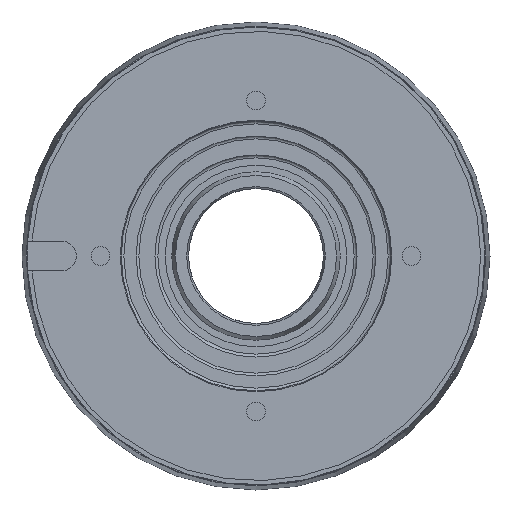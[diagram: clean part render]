
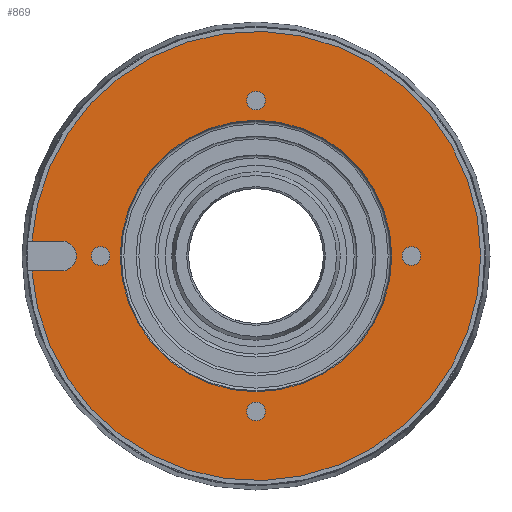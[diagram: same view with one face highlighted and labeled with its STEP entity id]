
A CAD part, left-side view. The second image highlights one B-rep face of the part: STEP entity #869.
In plain terms, the highlighted planar face has unit normal (-1, 0, 0).
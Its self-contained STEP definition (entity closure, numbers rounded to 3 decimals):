
#18 = ORIENTED_EDGE ( 'NONE', *, *, #888, .F. ) ;
#19 = CARTESIAN_POINT ( 'NONE',  ( 1.5, 0., 36.25 ) ) ;
#63 = DIRECTION ( 'NONE',  ( -1., 0., 0. ) ) ;
#65 = VERTEX_POINT ( 'NONE', #696 ) ;
#72 = EDGE_LOOP ( 'NONE', ( #18 ) ) ;
#96 = VERTEX_POINT ( 'NONE', #647 ) ;
#114 = CARTESIAN_POINT ( 'NONE',  ( 1.5, 41.5, 0. ) ) ;
#138 = CIRCLE ( 'NONE', #2077, 36.25 ) ;
#139 = CARTESIAN_POINT ( 'NONE',  ( 1.5, 59.867, -4. ) ) ;
#202 = DIRECTION ( 'NONE',  ( -1., 0., 0. ) ) ;
#207 = EDGE_CURVE ( 'NONE', #1570, #350, #2005, .T. ) ;
#228 = DIRECTION ( 'NONE',  ( 0., 0., 1. ) ) ;
#264 = CARTESIAN_POINT ( 'NONE',  ( 1.5, 0., 41.5 ) ) ;
#287 = FACE_OUTER_BOUND ( 'NONE', #1833, .T. ) ;
#346 = VERTEX_POINT ( 'NONE', #139 ) ;
#350 = VERTEX_POINT ( 'NONE', #1051 ) ;
#369 = VERTEX_POINT ( 'NONE', #517 ) ;
#374 = VERTEX_POINT ( 'NONE', #1662 ) ;
#389 = CARTESIAN_POINT ( 'NONE',  ( 1.5, 0., 0. ) ) ;
#393 = CARTESIAN_POINT ( 'NONE',  ( 1.5, 52., 4. ) ) ;
#408 = CARTESIAN_POINT ( 'NONE',  ( 1.5, 65., -4. ) ) ;
#418 = CARTESIAN_POINT ( 'NONE',  ( 1.5, 0., -41.5 ) ) ;
#510 = ORIENTED_EDGE ( 'NONE', *, *, #810, .T. ) ;
#517 = CARTESIAN_POINT ( 'NONE',  ( 1.5, 0., 44. ) ) ;
#531 = DIRECTION ( 'NONE',  ( -1., 0., 0. ) ) ;
#578 = CARTESIAN_POINT ( 'NONE',  ( 1.5, 52., 4. ) ) ;
#592 = ORIENTED_EDGE ( 'NONE', *, *, #1626, .F. ) ;
#595 = ORIENTED_EDGE ( 'NONE', *, *, #1859, .F. ) ;
#622 = AXIS2_PLACEMENT_3D ( 'NONE', #1048, #531, #1373 ) ;
#647 = CARTESIAN_POINT ( 'NONE',  ( 1.5, 0., -39. ) ) ;
#668 = VECTOR ( 'NONE', #1551, 1000. ) ;
#672 = ORIENTED_EDGE ( 'NONE', *, *, #1667, .F. ) ;
#679 = AXIS2_PLACEMENT_3D ( 'NONE', #264, #1744, #1244 ) ;
#687 = FACE_BOUND ( 'NONE', #2008, .T. ) ;
#696 = CARTESIAN_POINT ( 'NONE',  ( 1.5, 52., -4. ) ) ;
#709 = VECTOR ( 'NONE', #1427, 1000. ) ;
#810 = EDGE_CURVE ( 'NONE', #346, #350, #1346, .T. ) ;
#823 = VERTEX_POINT ( 'NONE', #19 ) ;
#828 = CARTESIAN_POINT ( 'NONE',  ( 1.5, 41.5, 2.5 ) ) ;
#869 = ADVANCED_FACE ( 'NONE', ( #1061, #1665, #1946, #1489, #287, #687 ), #1689, .T. ) ;
#871 = CIRCLE ( 'NONE', #1937, 2.5 ) ;
#888 = EDGE_CURVE ( 'NONE', #96, #96, #1406, .T. ) ;
#919 = CARTESIAN_POINT ( 'NONE',  ( 1.5, -41.5, 0. ) ) ;
#1005 = EDGE_LOOP ( 'NONE', ( #1732 ) ) ;
#1034 = VERTEX_POINT ( 'NONE', #828 ) ;
#1037 = CIRCLE ( 'NONE', #1707, 4. ) ;
#1040 = EDGE_CURVE ( 'NONE', #65, #1570, #1037, .T. ) ;
#1041 = CARTESIAN_POINT ( 'NONE',  ( 1.5, 0., 0. ) ) ;
#1048 = CARTESIAN_POINT ( 'NONE',  ( 1.5, 0., 0. ) ) ;
#1051 = CARTESIAN_POINT ( 'NONE',  ( 1.5, 59.867, 4. ) ) ;
#1061 = FACE_BOUND ( 'NONE', #72, .T. ) ;
#1081 = AXIS2_PLACEMENT_3D ( 'NONE', #1041, #202, #1209 ) ;
#1087 = ORIENTED_EDGE ( 'NONE', *, *, #207, .F. ) ;
#1100 = DIRECTION ( 'NONE',  ( 0., 0., 1. ) ) ;
#1179 = EDGE_CURVE ( 'NONE', #1034, #1034, #2063, .T. ) ;
#1209 = DIRECTION ( 'NONE',  ( 0., 0., 1. ) ) ;
#1244 = DIRECTION ( 'NONE',  ( 0., 0., 1. ) ) ;
#1346 = CIRCLE ( 'NONE', #1081, 60. ) ;
#1373 = DIRECTION ( 'NONE',  ( 0., 0., 1. ) ) ;
#1387 = DIRECTION ( 'NONE',  ( 0., 0., 1. ) ) ;
#1396 = DIRECTION ( 'NONE',  ( -1., 0., 0. ) ) ;
#1406 = CIRCLE ( 'NONE', #1593, 2.5 ) ;
#1427 = DIRECTION ( 'NONE',  ( 0., -1., 0. ) ) ;
#1476 = DIRECTION ( 'NONE',  ( -1., 0., 0. ) ) ;
#1489 = FACE_BOUND ( 'NONE', #1618, .T. ) ;
#1551 = DIRECTION ( 'NONE',  ( 0., 1., 0. ) ) ;
#1570 = VERTEX_POINT ( 'NONE', #393 ) ;
#1593 = AXIS2_PLACEMENT_3D ( 'NONE', #418, #63, #228 ) ;
#1602 = EDGE_LOOP ( 'NONE', ( #592 ) ) ;
#1618 = EDGE_LOOP ( 'NONE', ( #2118 ) ) ;
#1626 = EDGE_CURVE ( 'NONE', #369, #369, #1664, .T. ) ;
#1655 = EDGE_CURVE ( 'NONE', #374, #374, #871, .T. ) ;
#1662 = CARTESIAN_POINT ( 'NONE',  ( 1.5, -41.5, 2.5 ) ) ;
#1664 = CIRCLE ( 'NONE', #679, 2.5 ) ;
#1665 = FACE_BOUND ( 'NONE', #1005, .T. ) ;
#1667 = EDGE_CURVE ( 'NONE', #346, #65, #2056, .T. ) ;
#1689 = PLANE ( 'NONE',  #622 ) ;
#1707 = AXIS2_PLACEMENT_3D ( 'NONE', #1772, #1776, #1100 ) ;
#1732 = ORIENTED_EDGE ( 'NONE', *, *, #1655, .F. ) ;
#1744 = DIRECTION ( 'NONE',  ( -1., 0., 0. ) ) ;
#1772 = CARTESIAN_POINT ( 'NONE',  ( 1.5, 52., 0. ) ) ;
#1776 = DIRECTION ( 'NONE',  ( -1., 0., 0. ) ) ;
#1833 = EDGE_LOOP ( 'NONE', ( #1087, #1873, #672, #510 ) ) ;
#1859 = EDGE_CURVE ( 'NONE', #823, #823, #138, .T. ) ;
#1869 = AXIS2_PLACEMENT_3D ( 'NONE', #114, #1476, #1974 ) ;
#1873 = ORIENTED_EDGE ( 'NONE', *, *, #1040, .F. ) ;
#1937 = AXIS2_PLACEMENT_3D ( 'NONE', #919, #2114, #1942 ) ;
#1942 = DIRECTION ( 'NONE',  ( 0., 0., 1. ) ) ;
#1946 = FACE_BOUND ( 'NONE', #1602, .T. ) ;
#1974 = DIRECTION ( 'NONE',  ( 0., 0., 1. ) ) ;
#2005 = LINE ( 'NONE', #578, #668 ) ;
#2008 = EDGE_LOOP ( 'NONE', ( #595 ) ) ;
#2056 = LINE ( 'NONE', #408, #709 ) ;
#2063 = CIRCLE ( 'NONE', #1869, 2.5 ) ;
#2077 = AXIS2_PLACEMENT_3D ( 'NONE', #389, #1396, #1387 ) ;
#2114 = DIRECTION ( 'NONE',  ( -1., 0., 0. ) ) ;
#2118 = ORIENTED_EDGE ( 'NONE', *, *, #1179, .F. ) ;
